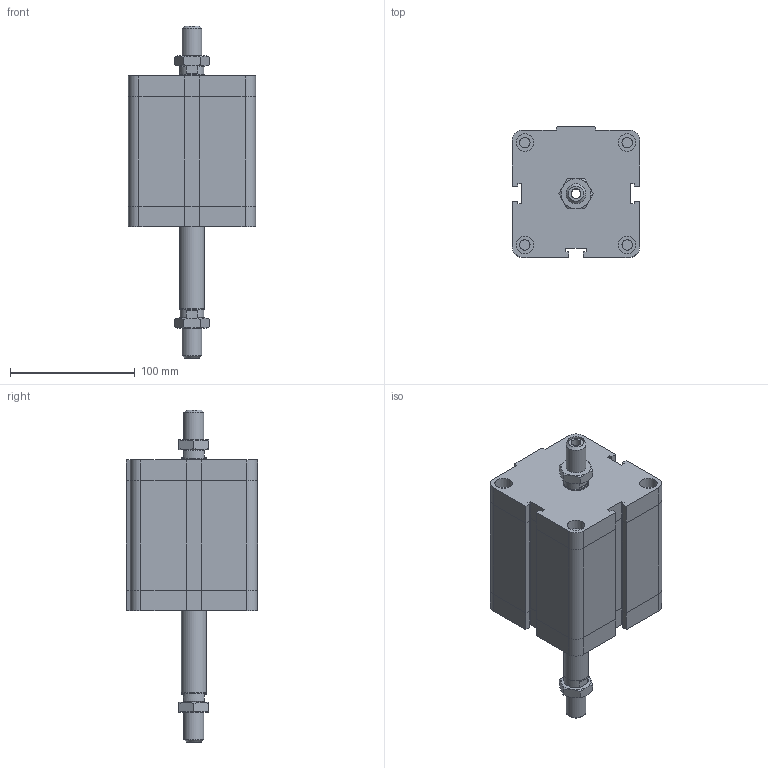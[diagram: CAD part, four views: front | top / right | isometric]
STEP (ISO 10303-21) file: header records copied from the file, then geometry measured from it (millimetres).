
FILE_DESCRIPTION((''),'2;1');
FILE_NAME('I:\Area Tecnica\Disegni\VARIE-3D\Componenti\EUROPE\15##_###_####_05_#\1581_80_0065_05_1.iam.stp','2009-04-20T15:03:11',(''),(''),'Autodesk Inventor 2009','Autodesk Inventor 2009','');
FILE_SCHEMA(('AUTOMOTIVE_DESIGN { 1 0 10303 214 1 1 1 1 }'));
Length unit declared in the file: millimetre
Products named in the file (4): 1581_80_0065_05_1; 1581_80_0065_03_1_C; 1561_80_0065_05_1_S; DBFM16
Assembly tree (4 placements, depth 2):
  1581_80_0065_05_1
    1581_80_0065_03_1_C
    1561_80_0065_05_1_S
    DBFM16  x2
Bounding box: 102 x 105 x 266 mm (x, y, z)
Volume: 1236992.6 mm3; surface area: 116682.5 mm2
Topology: 4 solids, 4 shells, 223 faces, 486 edges, 291 vertices
Faces by surface type: plane 129, cone 37, bspline 32, cylinder 25
Full cylindrical faces by diameter (mm): 8.376 x4, 14 x4, 14.5 x1, 16 x1, 19.5 x2, 20 x1
Entity records: 5484 total; most frequent: CARTESIAN_POINT 1227, DIRECTION 808, ORIENTED_EDGE 776, EDGE_CURVE 388, AXIS2_PLACEMENT_3D 275, EDGE_LOOP 262, VECTOR 258, LINE 258
